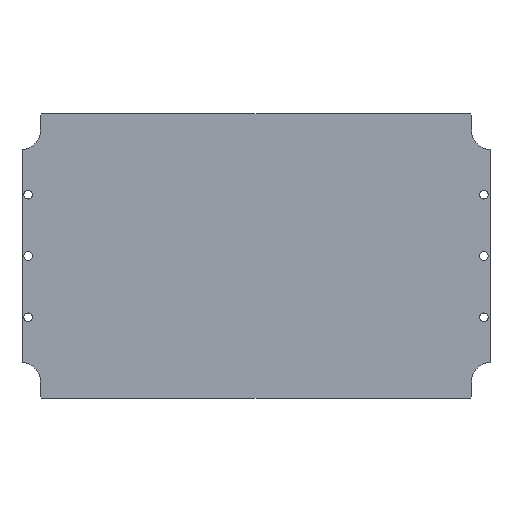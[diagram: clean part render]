
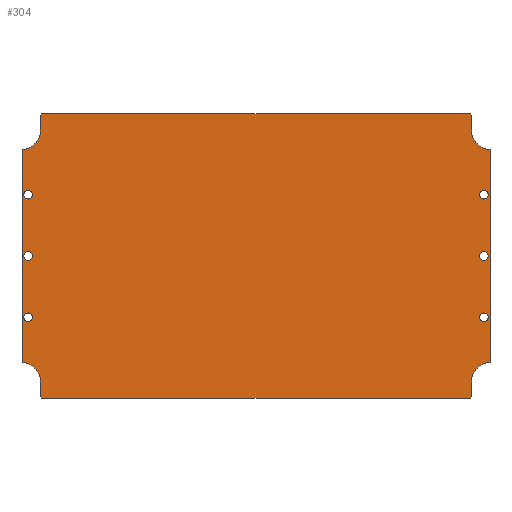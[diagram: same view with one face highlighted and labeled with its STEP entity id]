
A CAD part, top view. The second image highlights one B-rep face of the part: STEP entity #304.
In plain terms, the highlighted planar face has unit normal (0, 0, 1).
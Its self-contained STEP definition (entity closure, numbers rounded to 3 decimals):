
#59=CARTESIAN_POINT('',(176.,-115.0,0.0));
#60=VERTEX_POINT('',#59);
#67=CARTESIAN_POINT('',(175.,-116.0,0.0));
#68=VERTEX_POINT('',#67);
#69=CARTESIAN_POINT('',(176.,-115.0,0.0));
#70=DIRECTION('',(-0.707,-0.707,0.0));
#71=VECTOR('',#70,1.414);
#72=LINE('',#69,#71);
#73=EDGE_CURVE('',#60,#68,#72,.T.);
#90=CARTESIAN_POINT('',(-175.,-116.,0.0));
#91=VERTEX_POINT('',#90);
#92=CARTESIAN_POINT('',(175.,-116.0,0.0));
#93=DIRECTION('',(-1.0,0.0,0.0));
#94=VECTOR('',#93,350.0);
#95=LINE('',#92,#94);
#96=EDGE_CURVE('',#68,#91,#95,.T.);
#115=CARTESIAN_POINT('',(0.,0.,0.0));
#116=DIRECTION('',(0.0,0.0,1.0));
#117=DIRECTION('',(1.0,0.0,0.0));
#118=AXIS2_PLACEMENT_3D('',#115,#116,#117);
#119=PLANE('',#118);
#120=ORIENTED_EDGE('',*,*,#73,.F.);
#121=CARTESIAN_POINT('',(176.0,-102.,0.0));
#122=VERTEX_POINT('',#121);
#123=CARTESIAN_POINT('',(176.0,-102.,0.0));
#124=DIRECTION('',(0.0,-1.0,0.0));
#125=VECTOR('',#124,13.);
#126=LINE('',#123,#125);
#127=EDGE_CURVE('',#122,#60,#126,.T.);
#128=ORIENTED_EDGE('',*,*,#127,.F.);
#129=CARTESIAN_POINT('',(191.,-87.0,0.0));
#130=VERTEX_POINT('',#129);
#131=CARTESIAN_POINT('',(191.,-102.,0.0));
#132=DIRECTION('',(0.0,0.0,1.0));
#133=DIRECTION('',(0.0,1.0,0.0));
#134=AXIS2_PLACEMENT_3D('',#131,#132,#133);
#135=CIRCLE('',#134,15.);
#136=EDGE_CURVE('',#130,#122,#135,.T.);
#137=ORIENTED_EDGE('',*,*,#136,.F.);
#138=CARTESIAN_POINT('',(191.0,87.,0.0));
#139=VERTEX_POINT('',#138);
#140=CARTESIAN_POINT('',(191.0,87.,0.0));
#141=DIRECTION('',(0.0,-1.0,0.0));
#142=VECTOR('',#141,174.);
#143=LINE('',#140,#142);
#144=EDGE_CURVE('',#139,#130,#143,.T.);
#145=ORIENTED_EDGE('',*,*,#144,.F.);
#146=CARTESIAN_POINT('',(176.0,102.,0.0));
#147=VERTEX_POINT('',#146);
#148=CARTESIAN_POINT('',(191.,102.,0.0));
#149=DIRECTION('',(0.0,0.0,1.0));
#150=DIRECTION('',(-1.0,0.0,0.0));
#151=AXIS2_PLACEMENT_3D('',#148,#149,#150);
#152=CIRCLE('',#151,15.);
#153=EDGE_CURVE('',#147,#139,#152,.T.);
#154=ORIENTED_EDGE('',*,*,#153,.F.);
#155=CARTESIAN_POINT('',(176.,115.,0.0));
#156=VERTEX_POINT('',#155);
#157=CARTESIAN_POINT('',(176.,115.,0.0));
#158=DIRECTION('',(0.0,-1.0,0.0));
#159=VECTOR('',#158,13.);
#160=LINE('',#157,#159);
#161=EDGE_CURVE('',#156,#147,#160,.T.);
#162=ORIENTED_EDGE('',*,*,#161,.F.);
#163=CARTESIAN_POINT('',(175.,116.,0.0));
#164=VERTEX_POINT('',#163);
#165=CARTESIAN_POINT('',(175.,116.,0.0));
#166=DIRECTION('',(0.707,-0.707,0.0));
#167=VECTOR('',#166,1.414);
#168=LINE('',#165,#167);
#169=EDGE_CURVE('',#164,#156,#168,.T.);
#170=ORIENTED_EDGE('',*,*,#169,.F.);
#171=CARTESIAN_POINT('',(-175.,116.,0.0));
#172=VERTEX_POINT('',#171);
#173=CARTESIAN_POINT('',(-175.,116.,0.0));
#174=DIRECTION('',(1.0,0.0,0.0));
#175=VECTOR('',#174,350.0);
#176=LINE('',#173,#175);
#177=EDGE_CURVE('',#172,#164,#176,.T.);
#178=ORIENTED_EDGE('',*,*,#177,.F.);
#179=CARTESIAN_POINT('',(-176.,115.,0.0));
#180=VERTEX_POINT('',#179);
#181=CARTESIAN_POINT('',(-176.,115.,0.0));
#182=DIRECTION('',(0.707,0.707,0.0));
#183=VECTOR('',#182,1.414);
#184=LINE('',#181,#183);
#185=EDGE_CURVE('',#180,#172,#184,.T.);
#186=ORIENTED_EDGE('',*,*,#185,.F.);
#187=CARTESIAN_POINT('',(-176.,102.,0.0));
#188=VERTEX_POINT('',#187);
#189=CARTESIAN_POINT('',(-176.,102.,0.0));
#190=DIRECTION('',(0.0,1.0,0.0));
#191=VECTOR('',#190,13.);
#192=LINE('',#189,#191);
#193=EDGE_CURVE('',#188,#180,#192,.T.);
#194=ORIENTED_EDGE('',*,*,#193,.F.);
#195=CARTESIAN_POINT('',(-191.,87.,0.0));
#196=VERTEX_POINT('',#195);
#197=CARTESIAN_POINT('',(-191.,102.,0.0));
#198=DIRECTION('',(0.0,0.0,1.0));
#199=DIRECTION('',(0.0,-1.0,0.0));
#200=AXIS2_PLACEMENT_3D('',#197,#198,#199);
#201=CIRCLE('',#200,15.);
#202=EDGE_CURVE('',#196,#188,#201,.T.);
#203=ORIENTED_EDGE('',*,*,#202,.F.);
#204=CARTESIAN_POINT('',(-191.0,-87.0,0.0));
#205=VERTEX_POINT('',#204);
#206=CARTESIAN_POINT('',(-191.0,-87.0,0.0));
#207=DIRECTION('',(0.0,1.0,0.0));
#208=VECTOR('',#207,174.);
#209=LINE('',#206,#208);
#210=EDGE_CURVE('',#205,#196,#209,.T.);
#211=ORIENTED_EDGE('',*,*,#210,.F.);
#212=CARTESIAN_POINT('',(-176.,-102.,0.0));
#213=VERTEX_POINT('',#212);
#214=CARTESIAN_POINT('',(-191.,-102.,0.0));
#215=DIRECTION('',(0.0,0.0,1.0));
#216=DIRECTION('',(1.0,0.0,0.0));
#217=AXIS2_PLACEMENT_3D('',#214,#215,#216);
#218=CIRCLE('',#217,15.);
#219=EDGE_CURVE('',#213,#205,#218,.T.);
#220=ORIENTED_EDGE('',*,*,#219,.F.);
#221=CARTESIAN_POINT('',(-176.,-115.,0.0));
#222=VERTEX_POINT('',#221);
#223=CARTESIAN_POINT('',(-176.,-115.,0.0));
#224=DIRECTION('',(0.0,1.0,0.0));
#225=VECTOR('',#224,13.);
#226=LINE('',#223,#225);
#227=EDGE_CURVE('',#222,#213,#226,.T.);
#228=ORIENTED_EDGE('',*,*,#227,.F.);
#229=CARTESIAN_POINT('',(-175.,-116.,0.0));
#230=DIRECTION('',(-0.707,0.707,0.0));
#231=VECTOR('',#230,1.414);
#232=LINE('',#229,#231);
#233=EDGE_CURVE('',#91,#222,#232,.T.);
#234=ORIENTED_EDGE('',*,*,#233,.F.);
#235=ORIENTED_EDGE('',*,*,#96,.F.);
#236=EDGE_LOOP('',(#120,#128,#137,#145,#154,#162,#170,#178,#186,#194,#203,#211,#220,#228,#234,#235));
#237=FACE_OUTER_BOUND('',#236,.T.);
#238=CARTESIAN_POINT('',(189.5,50.,0.0));
#239=VERTEX_POINT('',#238);
#240=CARTESIAN_POINT('',(186.0,50.,0.0));
#241=DIRECTION('',(0.0,0.0,-1.0));
#242=DIRECTION('',(1.0,0.0,0.0));
#243=AXIS2_PLACEMENT_3D('',#240,#241,#242);
#244=CIRCLE('',#243,3.5);
#245=EDGE_CURVE('',#239,#239,#244,.T.);
#246=ORIENTED_EDGE('',*,*,#245,.T.);
#247=EDGE_LOOP('',(#246));
#248=FACE_BOUND('',#247,.T.);
#249=CARTESIAN_POINT('',(189.5,0.,0.0));
#250=VERTEX_POINT('',#249);
#251=CARTESIAN_POINT('',(186.0,0.,0.0));
#252=DIRECTION('',(0.0,0.0,-1.0));
#253=DIRECTION('',(1.0,0.0,0.0));
#254=AXIS2_PLACEMENT_3D('',#251,#252,#253);
#255=CIRCLE('',#254,3.5);
#256=EDGE_CURVE('',#250,#250,#255,.T.);
#257=ORIENTED_EDGE('',*,*,#256,.T.);
#258=EDGE_LOOP('',(#257));
#259=FACE_BOUND('',#258,.T.);
#260=CARTESIAN_POINT('',(189.5,-50.,0.0));
#261=VERTEX_POINT('',#260);
#262=CARTESIAN_POINT('',(186.,-50.,0.0));
#263=DIRECTION('',(0.0,0.0,-1.0));
#264=DIRECTION('',(1.0,0.0,0.0));
#265=AXIS2_PLACEMENT_3D('',#262,#263,#264);
#266=CIRCLE('',#265,3.5);
#267=EDGE_CURVE('',#261,#261,#266,.T.);
#268=ORIENTED_EDGE('',*,*,#267,.T.);
#269=EDGE_LOOP('',(#268));
#270=FACE_BOUND('',#269,.T.);
#271=CARTESIAN_POINT('',(-182.5,-50.,0.0));
#272=VERTEX_POINT('',#271);
#273=CARTESIAN_POINT('',(-186.,-50.,0.0));
#274=DIRECTION('',(0.0,0.0,-1.0));
#275=DIRECTION('',(1.0,0.0,0.0));
#276=AXIS2_PLACEMENT_3D('',#273,#274,#275);
#277=CIRCLE('',#276,3.5);
#278=EDGE_CURVE('',#272,#272,#277,.T.);
#279=ORIENTED_EDGE('',*,*,#278,.T.);
#280=EDGE_LOOP('',(#279));
#281=FACE_BOUND('',#280,.T.);
#282=CARTESIAN_POINT('',(-182.5,0.,0.0));
#283=VERTEX_POINT('',#282);
#284=CARTESIAN_POINT('',(-186.0,0.,0.0));
#285=DIRECTION('',(0.0,0.0,-1.0));
#286=DIRECTION('',(1.0,0.0,0.0));
#287=AXIS2_PLACEMENT_3D('',#284,#285,#286);
#288=CIRCLE('',#287,3.5);
#289=EDGE_CURVE('',#283,#283,#288,.T.);
#290=ORIENTED_EDGE('',*,*,#289,.T.);
#291=EDGE_LOOP('',(#290));
#292=FACE_BOUND('',#291,.T.);
#293=CARTESIAN_POINT('',(-182.5,50.,0.0));
#294=VERTEX_POINT('',#293);
#295=CARTESIAN_POINT('',(-186.0,50.,0.0));
#296=DIRECTION('',(0.0,0.0,-1.0));
#297=DIRECTION('',(1.0,0.0,0.0));
#298=AXIS2_PLACEMENT_3D('',#295,#296,#297);
#299=CIRCLE('',#298,3.5);
#300=EDGE_CURVE('',#294,#294,#299,.T.);
#301=ORIENTED_EDGE('',*,*,#300,.T.);
#302=EDGE_LOOP('',(#301));
#303=FACE_BOUND('',#302,.T.);
#304=ADVANCED_FACE('',(#237,#248,#259,#270,#281,#292,#303),#119,.T.);
